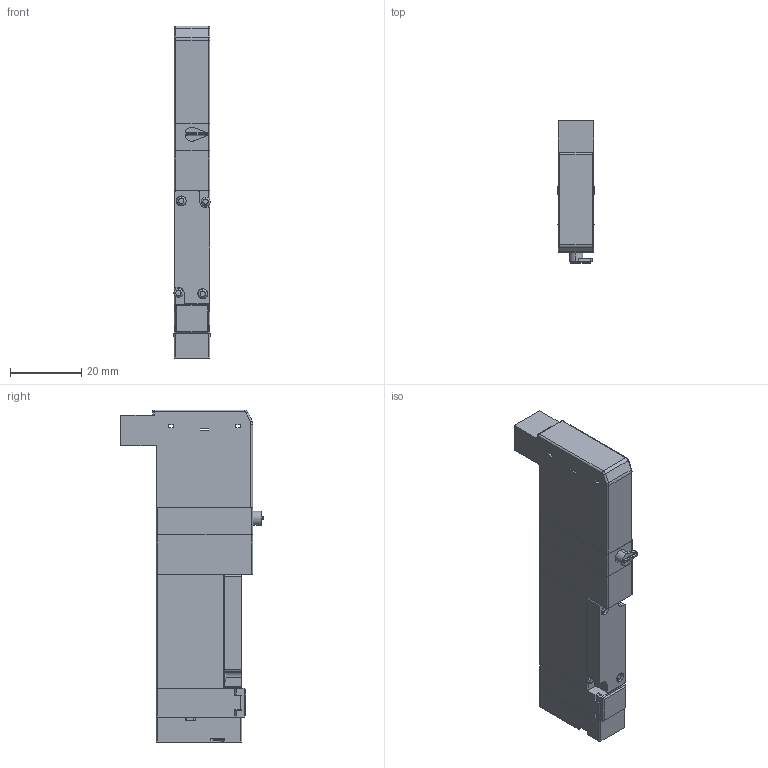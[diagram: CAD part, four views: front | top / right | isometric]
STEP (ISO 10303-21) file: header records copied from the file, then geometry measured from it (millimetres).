
FILE_DESCRIPTION( (''), '2;1');
FILE_NAME ('CVICAD02.13484.F10T1-R-A1_5806.stp','2020-09-01T14:10:20',(''),(''),'spGate 12.6.6','','');
FILE_SCHEMA (('AUTOMOTIVE_DESIGN'));
Length unit declared in the file: millimetre
Products named in the file (8): Assembly; F10_Adptor; F10_Cap; F10_SwitchBlock1; F_Connector-L; F10T_Body; F_3PortBody-R; F10_A1
Assembly tree (7 placements, depth 2):
  Assembly
    F10_Adptor
    F10_Cap
    F10_SwitchBlock1
    F_Connector-L
    F10T_Body
    F_3PortBody-R
    F10_A1
Bounding box: 10.2 x 40 x 93 mm (x, y, z)
Volume: 24253.5 mm3; surface area: 11159.7 mm2
Topology: 7 solids, 7 shells, 274 faces, 702 edges, 450 vertices
Faces by surface type: plane 164, cylinder 84, bspline 20, sphere 6
Entity records: 14376 total; most frequent: CARTESIAN_POINT 1861, DIRECTION 1405, ORIENTED_EDGE 1392, COLOUR_RGB 977, PRESENTATION_STYLE_ASSIGNMENT 977, STYLED_ITEM 977, EDGE_CURVE 696, DRAUGHTING_PRE_DEFINED_CURVE_FONT 696
